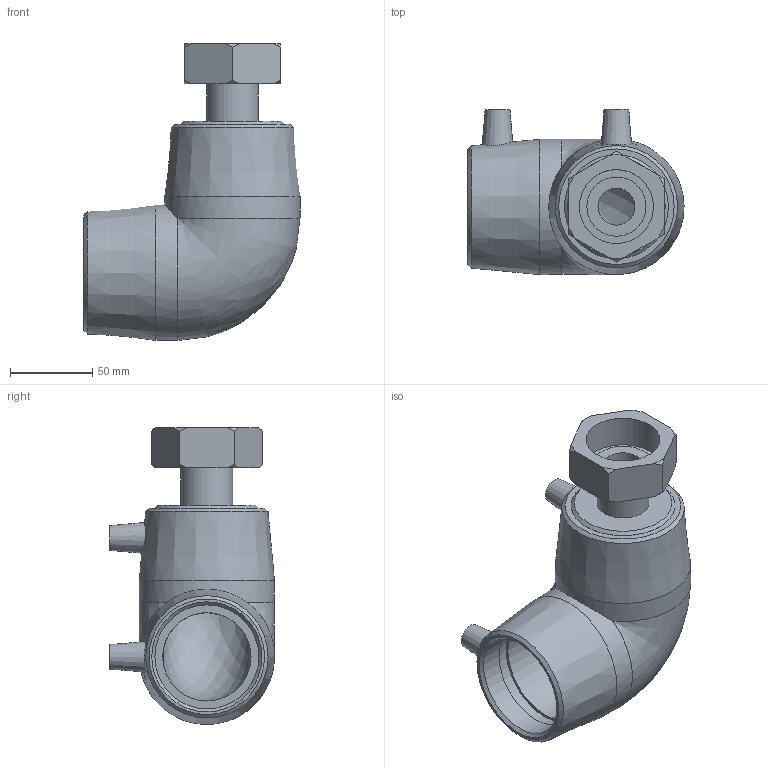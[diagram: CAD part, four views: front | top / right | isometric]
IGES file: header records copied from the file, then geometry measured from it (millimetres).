
Global section: file name: 494504063025.ipt; native system: Autodesk Inventor 2015; preprocessor: unknown; author: KIM; date: 20180426.120820; units: millimetre
Bounding box: 131 x 100 x 180 mm (x, y, z)
Volume: 494584.2 mm3; surface area: 101040.4 mm2
Topology: 1 solids, 2 shells, 63 faces, 151 edges, 102 vertices
Faces by surface type: plane 24, cone 19, revolution 11, cylinder 8, bspline 1
Full cylindrical faces by diameter (mm): 4 x2, 31.392 x1, 35.876 x1, 63 x2, 82 x2
